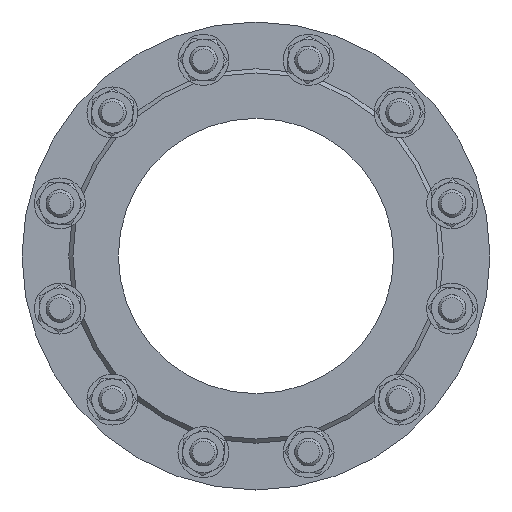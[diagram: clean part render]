
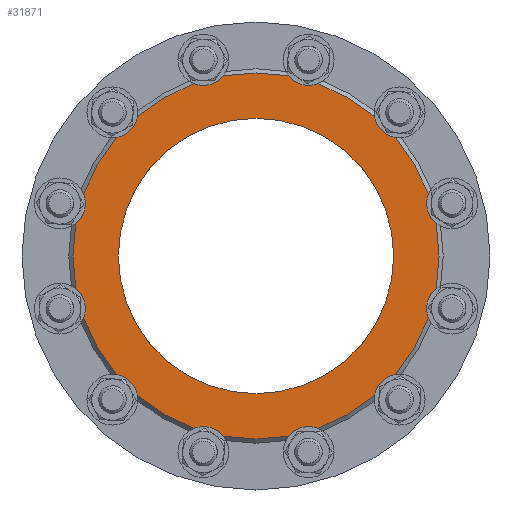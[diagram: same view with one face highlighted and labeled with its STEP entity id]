
A CAD part, left-side view. The second image highlights one B-rep face of the part: STEP entity #31871.
In plain terms, the highlighted planar face has unit normal (-1, 0, 0).
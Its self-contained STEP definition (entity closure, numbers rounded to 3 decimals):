
#612 = AXIS2_PLACEMENT_3D ( 'NONE', #16822, #36968, #6314 ) ;
#1547 = DIRECTION ( 'NONE',  ( 1., 0., 0. ) ) ;
#2020 = CIRCLE ( 'NONE', #612, 100. ) ;
#2539 = DIRECTION ( 'NONE',  ( 0., -1., 0. ) ) ;
#6314 = DIRECTION ( 'NONE',  ( 0., 0., -1. ) ) ;
#9836 = ORIENTED_EDGE ( 'NONE', *, *, #22057, .T. ) ;
#11914 = CIRCLE ( 'NONE', #14043, 133. ) ;
#12068 = PLANE ( 'NONE',  #41881 ) ;
#12534 = EDGE_LOOP ( 'NONE', ( #35715 ) ) ;
#14043 = AXIS2_PLACEMENT_3D ( 'NONE', #29410, #42828, #2539 ) ;
#15644 = DIRECTION ( 'NONE',  ( 0., 1., 0. ) ) ;
#16822 = CARTESIAN_POINT ( 'NONE',  ( -63., 0., 0. ) ) ;
#21657 = EDGE_LOOP ( 'NONE', ( #9836 ) ) ;
#21908 = FACE_BOUND ( 'NONE', #21657, .T. ) ;
#22057 = EDGE_CURVE ( 'NONE', #27090, #27090, #2020, .T. ) ;
#27090 = VERTEX_POINT ( 'NONE', #29783 ) ;
#29410 = CARTESIAN_POINT ( 'NONE',  ( -63., 0., 0. ) ) ;
#29783 = CARTESIAN_POINT ( 'NONE',  ( -63., 0., -100. ) ) ;
#31871 = ADVANCED_FACE ( 'NONE', ( #21908, #32420 ), #12068, .F. ) ;
#32214 = EDGE_CURVE ( 'NONE', #39370, #39370, #11914, .T. ) ;
#32420 = FACE_OUTER_BOUND ( 'NONE', #12534, .T. ) ;
#35346 = CARTESIAN_POINT ( 'NONE',  ( -63., 0., 100. ) ) ;
#35715 = ORIENTED_EDGE ( 'NONE', *, *, #32214, .T. ) ;
#36968 = DIRECTION ( 'NONE',  ( 1., 0., 0. ) ) ;
#39370 = VERTEX_POINT ( 'NONE', #42939 ) ;
#41881 = AXIS2_PLACEMENT_3D ( 'NONE', #35346, #1547, #15644 ) ;
#42828 = DIRECTION ( 'NONE',  ( -1., 0., 0. ) ) ;
#42939 = CARTESIAN_POINT ( 'NONE',  ( -63., -133., 0. ) ) ;
